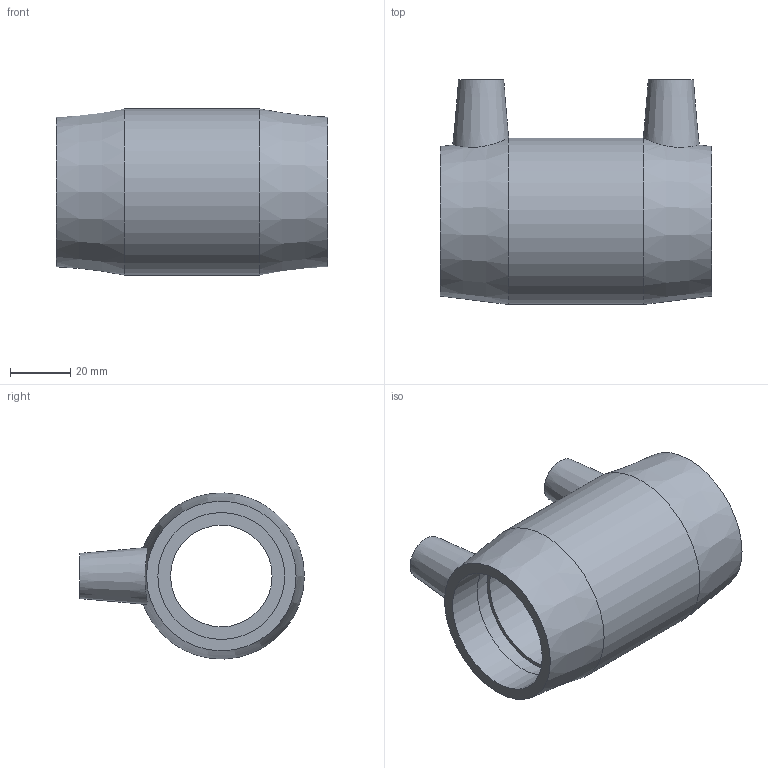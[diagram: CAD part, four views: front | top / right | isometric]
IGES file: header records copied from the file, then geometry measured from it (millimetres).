
Global section: file name: 5901B004013.ipt; native system: Autodesk Inventor 2019; preprocessor: unknown; author: KIM; date: 20210830.100909; units: inch
Bounding box: 89.92 x 74.55 x 55.08 mm (x, y, z)
Volume: 87018.4 mm3; surface area: 32770.4 mm2
Topology: 1 solids, 1 shells, 30 faces, 66 edges, 46 vertices
Faces by surface type: plane 12, revolution 11, cone 4, cylinder 3
Full cylindrical faces by diameter (mm): 4 x2, 55.118 x1
